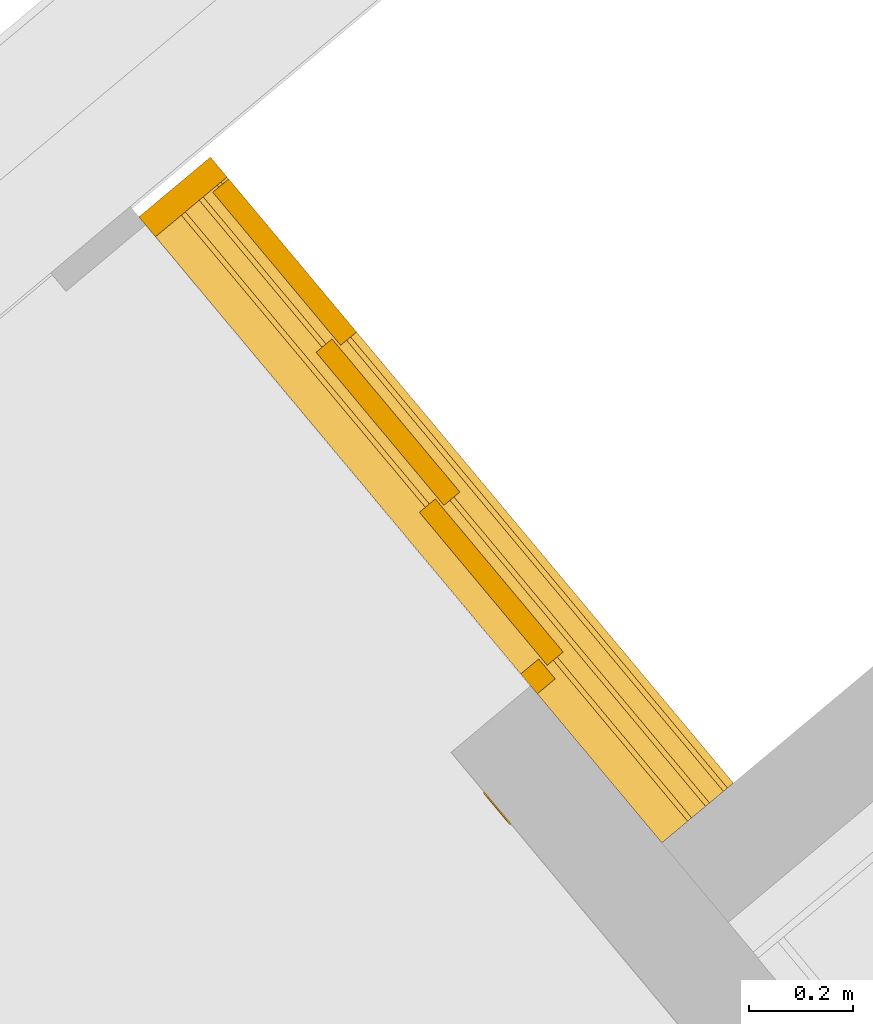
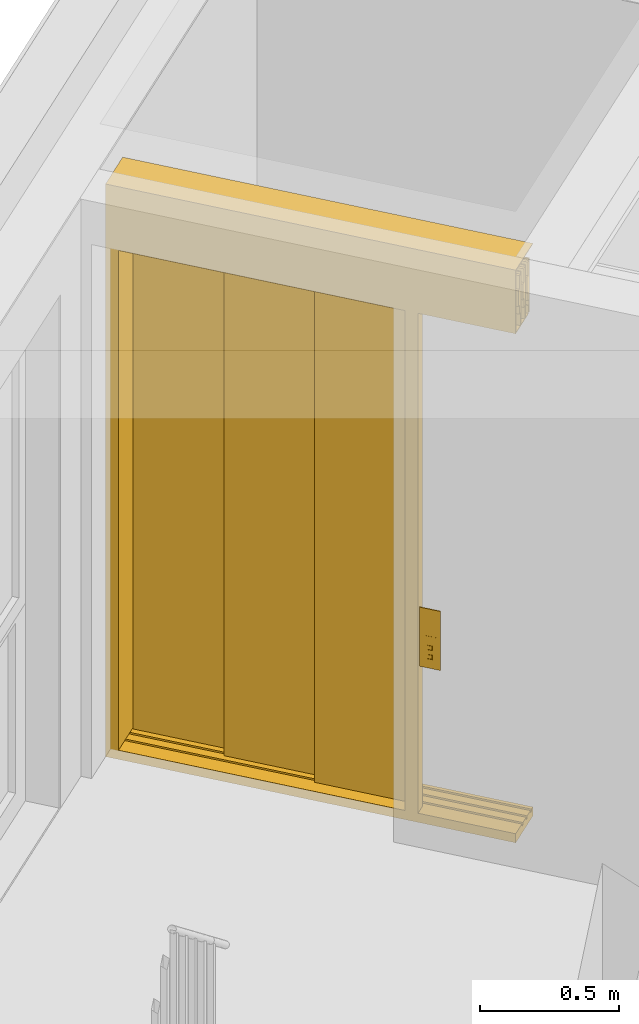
# One storey, part 52 of 61: 1 door.
"""IFC4 building model written with IfcOpenShell, lengths in metres."""

from ifc_helpers import new_model, entity, si_unit, converted_unit, derived_unit, direction, frame, origin_with_axes, place, context, subcontext, project, spatial, polygons, source, transform, mapped, type_object, element, save


model = new_model("IFC4")

# Units and contexts
model_context = context("Model", 3, precision=1e-05, world=origin_with_axes(), true_north=direction((0.0, 1.0)))
body_context = subcontext(model_context, "Body", "Model", "MODEL_VIEW")
ifc_project = project(units=[si_unit("LENGTHUNIT", "METRE"), si_unit("AREAUNIT", "SQUARE_METRE"), si_unit("VOLUMEUNIT", "CUBIC_METRE"), converted_unit("PLANEANGLEUNIT", "DEGREE", entity("IfcPlaneAngleMeasure", 0.0174532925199), si_unit("PLANEANGLEUNIT", "RADIAN"), dimensions=[0, 0, 0, 0, 0, 0, 0]), converted_unit("TIMEUNIT", "Year", entity("IfcTimeMeasure", 31556926.0), si_unit("TIMEUNIT", "SECOND"), dimensions=[0, 0, 1, 0, 0, 0, 0]), si_unit("MASSUNIT", "GRAM", prefix="KILO"), si_unit("THERMODYNAMICTEMPERATUREUNIT", "DEGREE_CELSIUS"), si_unit("LUMINOUSINTENSITYUNIT", "LUMEN"), si_unit("ENERGYUNIT", "JOULE", prefix="MEGA"), derived_unit("THERMALCONDUCTANCEUNIT", [(si_unit("POWERUNIT", "WATT"), 1), (si_unit("LENGTHUNIT", "METRE"), -1), (si_unit("THERMODYNAMICTEMPERATUREUNIT", "KELVIN"), -1)]), derived_unit("SPECIFICHEATCAPACITYUNIT", [(si_unit("ENERGYUNIT", "JOULE"), 1), (si_unit("MASSUNIT", "GRAM", prefix="KILO"), -1), (si_unit("THERMODYNAMICTEMPERATUREUNIT", "KELVIN"), -1)]), derived_unit("MASSDENSITYUNIT", [(si_unit("MASSUNIT", "GRAM", prefix="KILO"), 1), (si_unit("VOLUMEUNIT", "CUBIC_METRE"), -1)])], contexts=[model_context])

# Site, building, storey
site_placement = place(None, frame((-0.00153261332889, -0.00661245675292, 0.0), z_axis=(0.0, 0.0, 1.0), x_axis=(1.0, 0.0, 0.0)))
site = spatial("IfcSite", under=ifc_project, at=site_placement, Name="Gelände", CompositionType="ELEMENT")
building_placement = place(site_placement, origin_with_axes())
building = spatial("IfcBuilding", under=site, at=building_placement, Name="Gebäude", CompositionType="ELEMENT")
storey_placement = place(building_placement, frame((0.0, 0.0, 5.7), z_axis=(0.0, 0.0, 1.0), x_axis=(1.0, 0.0, 0.0)))
storey = spatial("IfcBuildingStorey", under=building, at=storey_placement, Name="DG1", CompositionType="ELEMENT", Elevation=5.7)

# Door
door_type = type_object("IfcDoorType", Name="Teleskoptür 26", OperationType="DOUBLE_DOOR_SLIDING", PredefinedType="NOTDEFINED")
shared_shape = source(origin_with_axes(), body_context, "Body", "Tessellation", [
    polygons([(0.975, 0.135, 2.2), (-0.6, 0.135, 2.2), (-0.6, 0.135, 2.238), (0.975, 0.135, 2.238), (0.975, 0.0, 2.2), (-0.6, 0.0, 2.2), (-0.6, 0.0, 2.48), (-0.6, 0.18, 2.48), (-0.6, 0.18, 2.477), (-0.6, 0.003, 2.477), (-0.6, 0.003, 2.203), (-0.6, 0.132, 2.203), (-0.6, 0.132, 2.238), (0.975, 0.132, 2.238), (0.975, 0.132, 2.203), (0.975, 0.003, 2.203), (0.975, 0.003, 2.477), (0.975, 0.18, 2.477), (0.975, 0.18, 2.48), (0.975, 0.0, 2.48)], [[[1, 2, 3, 4]], [[5, 6, 2, 1]], [[2, 6, 7, 8, 9, 10, 11, 12, 13, 3]], [[4, 3, 13, 14]], [[1, 4, 14, 15, 16, 17, 18, 19, 20, 5]], [[20, 7, 6, 5]], [[19, 8, 7, 20]], [[18, 9, 8, 19]], [[17, 10, 9, 18]], [[16, 11, 10, 17]], [[15, 12, 11, 16]], [[14, 13, 12, 15]]], closed=True),
    polygons([(0.975, 0.05, 2.203), (-0.6, 0.05, 2.203), (-0.6, 0.055, 2.203), (0.975, 0.055, 2.203), (0.975, 0.05, 2.44), (-0.6, 0.05, 2.44), (-0.6, 0.055, 2.44), (0.975, 0.055, 2.44)], [[[1, 2, 3, 4]], [[5, 6, 2, 1]], [[2, 6, 7, 3]], [[4, 3, 7, 8]], [[1, 4, 8, 5]], [[8, 7, 6, 5]]], closed=True),
    polygons([(0.975, 0.05, 2.43), (-0.6, 0.05, 2.43), (-0.6, 0.04, 2.43), (0.975, 0.04, 2.43), (0.975, 0.05, 2.37), (-0.6, 0.05, 2.37), (-0.6, 0.04, 2.37), (0.975, 0.04, 2.37)], [[[1, 2, 3, 4]], [[5, 6, 2, 1]], [[2, 6, 7, 3]], [[4, 3, 7, 8]], [[1, 4, 8, 5]], [[8, 7, 6, 5]]], closed=True),
    polygons([(0.975, 0.05, 2.3), (-0.6, 0.05, 2.3), (-0.6, 0.04, 2.3), (0.975, 0.04, 2.3), (0.975, 0.05, 2.26), (-0.6, 0.05, 2.26), (-0.6, 0.04, 2.26), (0.975, 0.04, 2.26)], [[[1, 2, 3, 4]], [[5, 6, 2, 1]], [[2, 6, 7, 3]], [[4, 3, 7, 8]], [[1, 4, 8, 5]], [[8, 7, 6, 5]]], closed=True),
    polygons([(0.975, 0.05, 2.37), (-0.6, 0.05, 2.37), (-0.6, 0.03, 2.37), (0.975, 0.03, 2.37), (0.975, 0.05, 2.3), (-0.6, 0.05, 2.3), (-0.6, 0.03, 2.3), (0.975, 0.03, 2.3)], [[[1, 2, 3, 4]], [[5, 6, 2, 1]], [[2, 6, 7, 3]], [[4, 3, 7, 8]], [[1, 4, 8, 5]], [[8, 7, 6, 5]]], closed=True),
    polygons([(0.975, 0.095, 2.203), (-0.6, 0.095, 2.203), (-0.6, 0.1, 2.203), (0.975, 0.1, 2.203), (0.975, 0.095, 2.44), (-0.6, 0.095, 2.44), (-0.6, 0.1, 2.44), (0.975, 0.1, 2.44)], [[[1, 2, 3, 4]], [[5, 6, 2, 1]], [[2, 6, 7, 3]], [[4, 3, 7, 8]], [[1, 4, 8, 5]], [[8, 7, 6, 5]]], closed=True),
    polygons([(0.975, 0.095, 2.43), (-0.6, 0.095, 2.43), (-0.6, 0.085, 2.43), (0.975, 0.085, 2.43), (0.975, 0.095, 2.37), (-0.6, 0.095, 2.37), (-0.6, 0.085, 2.37), (0.975, 0.085, 2.37)], [[[1, 2, 3, 4]], [[5, 6, 2, 1]], [[2, 6, 7, 3]], [[4, 3, 7, 8]], [[1, 4, 8, 5]], [[8, 7, 6, 5]]], closed=True),
    polygons([(0.975, 0.095, 2.3), (-0.6, 0.095, 2.3), (-0.6, 0.085, 2.3), (0.975, 0.085, 2.3), (0.975, 0.095, 2.26), (-0.6, 0.095, 2.26), (-0.6, 0.085, 2.26), (0.975, 0.085, 2.26)], [[[1, 2, 3, 4]], [[5, 6, 2, 1]], [[2, 6, 7, 3]], [[4, 3, 7, 8]], [[1, 4, 8, 5]], [[8, 7, 6, 5]]], closed=True),
    polygons([(0.975, 0.095, 2.37), (-0.6, 0.095, 2.37), (-0.6, 0.075, 2.37), (0.975, 0.075, 2.37), (0.975, 0.095, 2.3), (-0.6, 0.095, 2.3), (-0.6, 0.075, 2.3), (0.975, 0.075, 2.3)], [[[1, 2, 3, 4]], [[5, 6, 2, 1]], [[2, 6, 7, 3]], [[4, 3, 7, 8]], [[1, 4, 8, 5]], [[8, 7, 6, 5]]], closed=True),
    polygons([(0.975, 0.14, 2.203), (-0.6, 0.14, 2.203), (-0.6, 0.145, 2.203), (0.975, 0.145, 2.203), (0.975, 0.14, 2.44), (-0.6, 0.14, 2.44), (-0.6, 0.145, 2.44), (0.975, 0.145, 2.44)], [[[1, 2, 3, 4]], [[5, 6, 2, 1]], [[2, 6, 7, 3]], [[4, 3, 7, 8]], [[1, 4, 8, 5]], [[8, 7, 6, 5]]], closed=True),
    polygons([(0.975, 0.14, 2.43), (-0.6, 0.14, 2.43), (-0.6, 0.13, 2.43), (0.975, 0.13, 2.43), (0.975, 0.14, 2.37), (-0.6, 0.14, 2.37), (-0.6, 0.13, 2.37), (0.975, 0.13, 2.37)], [[[1, 2, 3, 4]], [[5, 6, 2, 1]], [[2, 6, 7, 3]], [[4, 3, 7, 8]], [[1, 4, 8, 5]], [[8, 7, 6, 5]]], closed=True),
    polygons([(0.975, 0.14, 2.3), (-0.6, 0.14, 2.3), (-0.6, 0.13, 2.3), (0.975, 0.13, 2.3), (0.975, 0.14, 2.26), (-0.6, 0.14, 2.26), (-0.6, 0.13, 2.26), (0.975, 0.13, 2.26)], [[[1, 2, 3, 4]], [[5, 6, 2, 1]], [[2, 6, 7, 3]], [[4, 3, 7, 8]], [[1, 4, 8, 5]], [[8, 7, 6, 5]]], closed=True),
    polygons([(0.975, 0.14, 2.37), (-0.6, 0.14, 2.37), (-0.6, 0.12, 2.37), (0.975, 0.12, 2.37), (0.975, 0.14, 2.3), (-0.6, 0.14, 2.3), (-0.6, 0.12, 2.3), (0.975, 0.12, 2.3)], [[[1, 2, 3, 4]], [[5, 6, 2, 1]], [[2, 6, 7, 3]], [[4, 3, 7, 8]], [[1, 4, 8, 5]], [[8, 7, 6, 5]]], closed=True),
    polygons([(0.975, 0.0, 0.0), (-0.6, 0.0, 0.0), (-0.6, 0.0, -0.04), (0.975, 0.0, -0.04), (0.975, 0.065, 0.0), (-0.6, 0.065, 0.0), (-0.6, 0.065, -0.01), (-0.6, 0.075, -0.01), (-0.6, 0.075, 0.0), (-0.6, 0.11, 0.0), (-0.6, 0.11, -0.01), (-0.6, 0.12, -0.01), (-0.6, 0.12, 0.0), (-0.6, 0.155, 0.0), (-0.6, 0.155, -0.01), (-0.6, 0.165, -0.01), (-0.6, 0.165, 0.0), (-0.6, 0.18, 0.0), (-0.6, 0.18, -0.04), (0.975, 0.18, -0.04), (0.975, 0.18, 0.0), (0.975, 0.165, 0.0), (0.975, 0.165, -0.01), (0.975, 0.155, -0.01), (0.975, 0.155, 0.0), (0.975, 0.12, 0.0), (0.975, 0.12, -0.01), (0.975, 0.11, -0.01), (0.975, 0.11, 0.0), (0.975, 0.075, 0.0), (0.975, 0.075, -0.01), (0.975, 0.065, -0.01)], [[[1, 2, 3, 4]], [[5, 6, 2, 1]], [[2, 6, 7, 8, 9, 10, 11, 12, 13, 14, 15, 16, 17, 18, 19, 3]], [[4, 3, 19, 20]], [[1, 4, 20, 21, 22, 23, 24, 25, 26, 27, 28, 29, 30, 31, 32, 5]], [[32, 7, 6, 5]], [[31, 8, 7, 32]], [[30, 9, 8, 31]], [[29, 10, 9, 30]], [[28, 11, 10, 29]], [[27, 12, 11, 28]], [[26, 13, 12, 27]], [[25, 14, 13, 26]], [[24, 15, 14, 25]], [[23, 16, 15, 24]], [[22, 17, 16, 23]], [[21, 18, 17, 22]], [[20, 19, 18, 21]]], closed=True),
    polygons([(0.55, 0.0, 0.0), (0.55, 0.0, 2.2), (0.55, 0.045, 2.2), (0.55, 0.045, 0.0), (0.6, 0.0, 0.0), (0.6, 0.0, 2.2), (0.6, 0.045, 2.2), (0.6, 0.045, 0.0)], [[[1, 2, 3, 4]], [[5, 6, 2, 1]], [[2, 6, 7, 3]], [[4, 3, 7, 8]], [[1, 4, 8, 5]], [[8, 7, 6, 5]]], closed=True),
    polygons([(-0.6, 0.0, 0.0), (-0.6, 0.0, 2.2), (-0.6, 0.18, 2.2), (-0.6, 0.18, 0.0), (-0.55, 0.0, 0.0), (-0.55, 0.0, 2.2), (-0.55, 0.18, 2.2), (-0.55, 0.18, 0.0)], [[[1, 2, 3, 4]], [[5, 6, 2, 1]], [[2, 6, 7, 3]], [[4, 3, 7, 8]], [[1, 4, 8, 5]], [[8, 7, 6, 5]]], closed=True),
    polygons([(0.68, -0.2, 0.8), (0.76, -0.2, 0.8), (0.76, -0.203, 0.8), (0.68, -0.203, 0.8), (0.68, -0.2, 1.06), (0.76, -0.2, 1.06), (0.69, -0.2, 1.03), (0.69, -0.2, 0.94), (0.75, -0.2, 0.94), (0.75, -0.2, 1.03), (0.71, -0.2, 0.84), (0.73, -0.2, 0.84), (0.73, -0.2, 0.86), (0.71, -0.2, 0.86), (0.71, -0.2, 0.88), (0.73, -0.2, 0.88), (0.73, -0.2, 0.9), (0.71, -0.2, 0.9), (0.76, -0.203, 1.06), (0.68, -0.203, 1.06), (0.69, -0.203, 1.03), (0.75, -0.203, 1.03), (0.75, -0.203, 0.94), (0.69, -0.203, 0.94), (0.71, -0.203, 0.84), (0.71, -0.203, 0.86), (0.73, -0.203, 0.86), (0.73, -0.203, 0.84), (0.71, -0.203, 0.88), (0.71, -0.203, 0.9), (0.73, -0.203, 0.9), (0.73, -0.203, 0.88)], [[[1, 2, 3, 4]], [[1, 5, 6, 2], [7, 8, 9, 10], [11, 12, 13, 14], [15, 16, 17, 18]], [[2, 6, 19, 3]], [[4, 3, 19, 20], [21, 22, 23, 24], [25, 26, 27, 28], [29, 30, 31, 32]], [[5, 1, 4, 20]], [[6, 5, 20, 19]], [[8, 7, 21, 24]], [[9, 8, 24, 23]], [[10, 9, 23, 22]], [[7, 10, 22, 21]], [[12, 11, 25, 28]], [[13, 12, 28, 27]], [[14, 13, 27, 26]], [[11, 14, 26, 25]], [[16, 15, 29, 32]], [[17, 16, 32, 31]], [[18, 17, 31, 30]], [[15, 18, 30, 29]]], closed=True),
    polygons([(0.69, -0.2, 0.94), (0.75, -0.2, 0.94), (0.75, -0.2025, 0.94), (0.69, -0.2025, 0.94), (0.69, -0.2, 1.03), (0.75, -0.2, 1.03), (0.75, -0.2025, 1.03), (0.69, -0.2025, 1.03)], [[[1, 2, 3, 4]], [[1, 5, 6, 2]], [[2, 6, 7, 3]], [[4, 3, 7, 8]], [[5, 1, 4, 8]], [[6, 5, 8, 7]]], closed=True),
    polygons([(0.704, -0.203, 1.005), (0.71, -0.203, 1.021), (0.716, -0.203, 1.005)], [[[1, 2, 3]]], closed=False),
    polygons([(0.73, -0.203, 1.005), (0.724, -0.203, 1.021), (0.736, -0.203, 1.021)], [[[1, 2, 3]]], closed=False),
    polygons([(0.717272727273, -0.2035, 0.982), (0.717272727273, -0.2035, 0.971636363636), (0.715909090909, -0.2035, 0.970272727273), (0.714545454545, -0.2035, 0.971636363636), (0.714545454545, -0.2035, 0.982), (0.715909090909, -0.2035, 0.983363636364)], [[[1, 2, 3, 4, 5, 6]]], closed=False),
    polygons([(0.717272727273, -0.2035, 0.968363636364), (0.717272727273, -0.2035, 0.958), (0.715909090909, -0.2035, 0.956636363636), (0.714545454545, -0.2035, 0.958), (0.714545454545, -0.2035, 0.968363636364), (0.715909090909, -0.2035, 0.969727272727)], [[[1, 2, 3, 4, 5, 6]]], closed=False),
    polygons([(0.736090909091, -0.2035, 0.982272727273), (0.725727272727, -0.2035, 0.982272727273), (0.724363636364, -0.2035, 0.983636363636), (0.725727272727, -0.2035, 0.985), (0.736090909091, -0.2035, 0.985), (0.737454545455, -0.2035, 0.983636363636)], [[[1, 2, 3, 4, 5, 6]]], closed=False),
    polygons([(0.739090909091, -0.2035, 0.982), (0.739090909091, -0.2035, 0.971636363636), (0.737727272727, -0.2035, 0.970272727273), (0.736363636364, -0.2035, 0.971636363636), (0.736363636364, -0.2035, 0.982), (0.737727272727, -0.2035, 0.983363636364)], [[[1, 2, 3, 4, 5, 6]]], closed=False),
    polygons([(0.736090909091, -0.2035, 0.968636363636), (0.725727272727, -0.2035, 0.968636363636), (0.724363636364, -0.2035, 0.97), (0.725727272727, -0.2035, 0.971363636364), (0.736090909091, -0.2035, 0.971363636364), (0.737454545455, -0.2035, 0.97)], [[[1, 2, 3, 4, 5, 6]]], closed=False),
    polygons([(0.725454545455, -0.2035, 0.968363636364), (0.725454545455, -0.2035, 0.958), (0.724090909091, -0.2035, 0.956636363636), (0.722727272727, -0.2035, 0.958), (0.722727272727, -0.2035, 0.968363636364), (0.724090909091, -0.2035, 0.969727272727)], [[[1, 2, 3, 4, 5, 6]]], closed=False),
    polygons([(0.736090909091, -0.2035, 0.955), (0.725727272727, -0.2035, 0.955), (0.724363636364, -0.2035, 0.956363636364), (0.725727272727, -0.2035, 0.957727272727), (0.736090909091, -0.2035, 0.957727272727), (0.737454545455, -0.2035, 0.956363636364)], [[[1, 2, 3, 4, 5, 6]]], closed=False),
    polygons([(0.73, -0.2, 0.84), (0.71, -0.2, 0.84), (0.71, -0.2, 0.86), (0.73, -0.2, 0.86), (0.730000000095, -0.2015, 0.83999999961), (0.70999999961, -0.2015, 0.83999999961), (0.70999999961, -0.2015, 0.860000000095), (0.730000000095, -0.2015, 0.860000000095), (0.728599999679, -0.202900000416, 0.841400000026), (0.711400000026, -0.202900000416, 0.841400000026), (0.711400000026, -0.202900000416, 0.858599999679), (0.728599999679, -0.202900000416, 0.858599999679)], [[[1, 2, 3, 4]], [[2, 1, 5, 6]], [[3, 2, 6, 7]], [[4, 3, 7, 8]], [[1, 4, 8, 5]], [[6, 5, 9, 10]], [[7, 6, 10, 11]], [[8, 7, 11, 12]], [[5, 8, 12, 9]], [[11, 10, 9, 12]]], closed=True),
    polygons([(0.725, -0.203, 0.855), (0.72, -0.203, 0.844), (0.715, -0.203, 0.855)], [[[1, 2, 3]]], closed=False),
    polygons([(0.73, -0.2, 0.88), (0.71, -0.2, 0.88), (0.71, -0.2, 0.9), (0.73, -0.2, 0.9), (0.730000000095, -0.2015, 0.87999999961), (0.70999999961, -0.2015, 0.87999999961), (0.70999999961, -0.2015, 0.900000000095), (0.730000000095, -0.2015, 0.900000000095), (0.728599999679, -0.202900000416, 0.881400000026), (0.711400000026, -0.202900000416, 0.881400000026), (0.711400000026, -0.202900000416, 0.898599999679), (0.728599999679, -0.202900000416, 0.898599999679)], [[[1, 2, 3, 4]], [[2, 1, 5, 6]], [[3, 2, 6, 7]], [[4, 3, 7, 8]], [[1, 4, 8, 5]], [[6, 5, 9, 10]], [[7, 6, 10, 11]], [[8, 7, 11, 12]], [[5, 8, 12, 9]], [[11, 10, 9, 12]]], closed=True),
    polygons([(0.725, -0.203, 0.885), (0.715, -0.203, 0.885), (0.72, -0.203, 0.896)], [[[1, 2, 3]]], closed=False),
    polygons([(-0.16, 0.14, 0.003), (-0.545, 0.14, 0.003), (-0.545, 0.18, 0.003), (-0.16, 0.18, 0.003), (-0.16, 0.14, 2.2), (-0.545, 0.14, 2.2), (-0.545, 0.18, 2.2), (-0.16, 0.18, 2.2)], [[[1, 2, 3, 4]], [[1, 5, 6, 2]], [[2, 6, 7, 3]], [[4, 3, 7, 8]], [[5, 1, 4, 8]], [[6, 5, 8, 7]]], closed=True),
    polygons([(0.205, 0.095, 0.003), (-0.18, 0.095, 0.003), (-0.18, 0.135, 0.003), (0.205, 0.135, 0.003), (0.205, 0.095, 2.2), (-0.18, 0.095, 2.2), (-0.18, 0.135, 2.2), (0.205, 0.135, 2.2)], [[[1, 2, 3, 4]], [[1, 5, 6, 2]], [[2, 6, 7, 3]], [[4, 3, 7, 8]], [[5, 1, 4, 8]], [[6, 5, 8, 7]]], closed=True),
    polygons([(0.57, 0.05, 0.003), (0.185, 0.05, 0.003), (0.185, 0.09, 0.003), (0.57, 0.09, 0.003), (0.57, 0.05, 2.2), (0.185, 0.05, 2.2), (0.185, 0.09, 2.2), (0.57, 0.09, 2.2)], [[[1, 2, 3, 4]], [[1, 5, 6, 2]], [[2, 6, 7, 3]], [[4, 3, 7, 8]], [[5, 1, 4, 8]], [[6, 5, 8, 7]]], closed=True),
])
door_placement = place(storey_placement, frame((0.385654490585, 25.9561027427, 0.22), z_axis=(0.0, 0.0, 1.0), x_axis=(0.641161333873, -0.767406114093, 0.0)))
element("IfcDoor", 1, at=door_placement, inside=storey, type_object=door_type, Name="Tür-003", OverallHeight=2.57, OverallWidth=1.16, PredefinedType="NOTDEFINED", context=body_context, shape_type="MappedRepresentation", body=[
    mapped(shared_shape, transform((0.55, 0.0, 0.0))),
])

save(model, "model.ifc")
